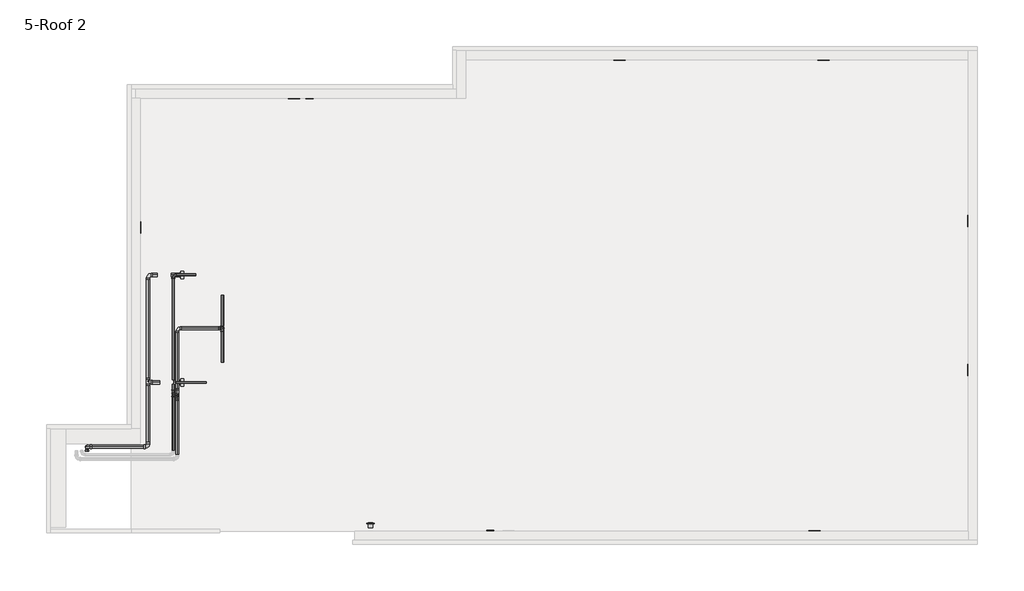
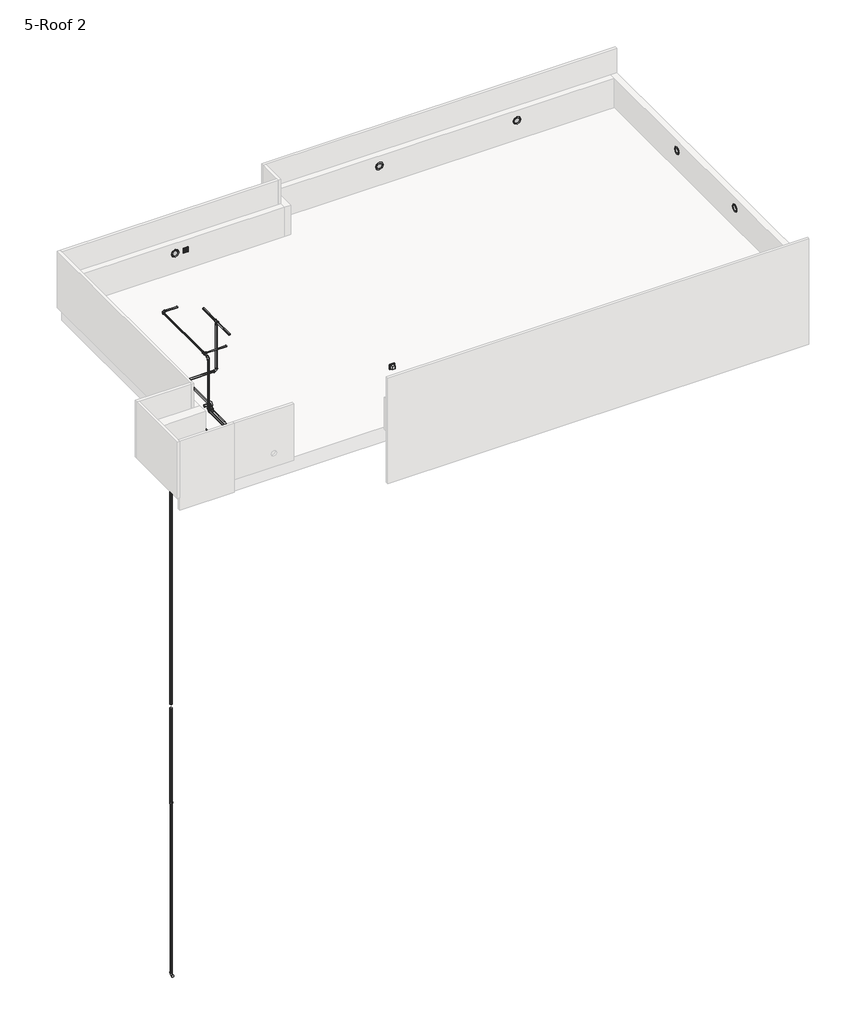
# One storey, part 2 of 2: 25 pipe segments, 17 pipe fittings, 7 light fixtures, 2 proxies, 1 switching device.
"""IFC4 building model written with IfcOpenShell, lengths in millimetres."""

from ifc_helpers import new_model, si_unit, point, frame, frame_2d, origin, place, context, project, spatial, circle_curve, trimmed, segment, composite_curve, outline, extrude, transform, mapped, element, save
from ifc_brep_helpers import plane_surface, cylinder_surface, advanced_brep
from components import wall_mounted_socket_ups_wall_mounted_socket_ups_4524048d, m_recessed_lamp_round_led_e6f06c98, m_bend_pvc_sch_40_dwv_standard_48d77e49, m_bend_pvc_sch_40_dwv_standard_b153bf5a, m_bend_pvc_sch_40_dwv_standard_3b51b5af, m_bend_pvc_sch_40_dwv_standard_be9000f5, m_bend_pvc_sch_40_dwv_standard_58f888c4, m_bend_pvc_sch_40_dwv_standard_6a13f82e, m_reducer_pvc_sch_40_dwv_standard_5cc089c8, m_reducer_pvc_sch_40_dwv_standard_06ee5028, m_tee_reducing_sanitary_pvc_sch_40_dwv_standard_7461a09c, m_tee_reducing_sanitary_pvc_sch_40_dwv_standard_235fb988, m_tee_reducing_sanitary_pvc_sch_40_dwv_standard_82d335f6, switching_device_ab05ab5c

model = new_model("IFC4")

# Units and contexts
model_context = context("Model", 3, world=origin())
ifc_project = project(units=[si_unit("LENGTHUNIT", "METRE", prefix="MILLI")], contexts=[model_context])

# Site, building, storey
site = spatial("IfcSite", under=ifc_project)
building = spatial("IfcBuilding", under=site)
storey = spatial("IfcBuildingStorey", under=building, Name="5-Roof 2", Elevation=13150.0)

# Proxies
placement = place(None, origin())
wall_mounted_socket_ups_wall_mounted_socket_ups_shape = wall_mounted_socket_ups_wall_mounted_socket_ups_4524048d(model_context)
element("IfcBuildingElementProxy", 1, Name="WALL MOUNTED WATERPROOF SOCKET : WALL MOUNTED WATERPROOF SOCKET", ObjectType="WALL MOUNTED WATERPROOF SOCKET : WALL MOUNTED WATERPROOF SOCKET", at=placement, inside=storey, context=model_context, shape_type="MappedRepresentation", body=[
    mapped(wall_mounted_socket_ups_wall_mounted_socket_ups_shape, transform((-2737.4765921, 8581.6620874, 13600.0), x_axis=(1.0, 0.0, 0.0), y_axis=(0.0, 0.0, 1.0), z_axis=(0.0, -1.0, 0.0))),
])
element("IfcBuildingElementProxy", 2, Name="WALL MOUNTED WATERPROOF SOCKET : WALL MOUNTED WATERPROOF SOCKET", ObjectType="WALL MOUNTED WATERPROOF SOCKET : WALL MOUNTED WATERPROOF SOCKET", at=placement, inside=storey, context=model_context, shape_type="MappedRepresentation", body=[
    mapped(wall_mounted_socket_ups_wall_mounted_socket_ups_shape, transform((-387.4765921, 2950.6486583, 13600.0), x_axis=(-1.0, 0.0, 0.0), y_axis=(0.0, 0.0, 1.0), z_axis=(0.0, 1.0, 0.0))),
])

# Light fixtures
m_recessed_lamp_round_led_shape = m_recessed_lamp_round_led_e6f06c98(model_context)
element("IfcLightFixture", 3, ObjectType="M_Recessed Lamp - Round - LED : 100mm Trimless Downlight", at=placement, inside=storey, context=model_context, shape_type="MappedRepresentation", body=[
    mapped(m_recessed_lamp_round_led_shape, transform((3827.8774898, 2950.6486583, 13600.0), x_axis=(-1.0, 0.0, 0.0), y_axis=(0.0, 0.0, 1.0), z_axis=(0.0, 1.0, 0.0))),
])
element("IfcLightFixture", 4, ObjectType="M_Recessed Lamp - Round - LED : 100mm Trimless Downlight", at=placement, inside=storey, context=model_context, shape_type="MappedRepresentation", body=[
    mapped(m_recessed_lamp_round_led_shape, transform((5827.8774898, 5046.4863231, 13600.0), x_axis=(0.0, -1.0, 0.0), y_axis=(0.0, 0.0, 1.0), z_axis=(-1.0, 0.0, 0.0))),
])
element("IfcLightFixture", 5, ObjectType="M_Recessed Lamp - Round - LED : 100mm Trimless Downlight", at=placement, inside=storey, context=model_context, shape_type="MappedRepresentation", body=[
    mapped(m_recessed_lamp_round_led_shape, transform((5827.8774898, 6981.6620874, 13600.0), x_axis=(0.0, -1.0, 0.0), y_axis=(0.0, 0.0, 1.0), z_axis=(-1.0, 0.0, 0.0))),
])
element("IfcLightFixture", 6, ObjectType="M_Recessed Lamp - Round - LED : 100mm Trimless Downlight", at=placement, inside=storey, context=model_context, shape_type="MappedRepresentation", body=[
    mapped(m_recessed_lamp_round_led_shape, transform((3947.8774898, 9081.6620874, 13600.0), x_axis=(1.0, 0.0, 0.0), y_axis=(0.0, 0.0, 1.0), z_axis=(0.0, -1.0, 0.0))),
])
element("IfcLightFixture", 7, ObjectType="M_Recessed Lamp - Round - LED : 100mm Trimless Downlight", at=placement, inside=storey, context=model_context, shape_type="MappedRepresentation", body=[
    mapped(m_recessed_lamp_round_led_shape, transform((1292.5234079, 9081.6620874, 13600.0), x_axis=(1.0, 0.0, 0.0), y_axis=(0.0, 0.0, 1.0), z_axis=(0.0, -1.0, 0.0))),
])
element("IfcLightFixture", 8, ObjectType="M_Recessed Lamp - Round - LED : 100mm Trimless Downlight", at=placement, inside=storey, context=model_context, shape_type="MappedRepresentation", body=[
    mapped(m_recessed_lamp_round_led_shape, transform((-2937.4765921, 8581.6620874, 13600.0), x_axis=(0.0, 0.0, 1.0), y_axis=(-1.0, 0.0, 0.0), z_axis=(0.0, -1.0, 0.0))),
])
element("IfcLightFixture", 9, ObjectType="M_Recessed Lamp - Round - LED : 100mm Trimless Downlight", at=placement, inside=storey, context=model_context, shape_type="MappedRepresentation", body=[
    mapped(m_recessed_lamp_round_led_shape, transform((-4937.4765921, 6901.6620874, 13600.0), x_axis=(0.0, 1.0, 0.0), y_axis=(0.0, 0.0, 1.0), z_axis=(1.0, 0.0, 0.0))),
])

# Pipe fittings
m_bend_pvc_sch_40_dwv_standard_shape = m_bend_pvc_sch_40_dwv_standard_48d77e49(model_context)
element("IfcPipeFitting", 10, ObjectType="M_Bend - PVC - Sch 40 - DWV : Standard", at=placement, inside=storey, context=model_context, shape_type="MappedRepresentation", body=[
    mapped(m_bend_pvc_sch_40_dwv_standard_shape, transform((-4837.4765921, 6281.6620874, 13275.0), x_axis=(-1.0, 0.0, 0.0), y_axis=(0.0, -1.0, 0.0), z_axis=(0.0, 0.0, 1.0))),
])
element("IfcPipeFitting", 11, ObjectType="M_Bend - PVC - Sch 40 - DWV : Standard", at=placement, inside=storey, context=model_context, shape_type="MappedRepresentation", body=[
    mapped(m_bend_pvc_sch_40_dwv_standard_shape, transform((-4837.4765921, 4046.005548, 13275.0), x_axis=(1.0, 0.0, 0.0), y_axis=(0.0, 1.0, 0.0), z_axis=(0.0, 0.0, 1.0))),
])
element("IfcPipeFitting", 12, ObjectType="M_Bend - PVC - Sch 40 - DWV : Standard", at=placement, inside=storey, context=model_context, shape_type="MappedRepresentation", body=[
    mapped(m_bend_pvc_sch_40_dwv_standard_shape, transform((-5629.7730432, 4046.005548, 13275.0), x_axis=(-1.0, 0.0, 0.0), y_axis=(0.0, 0.0, -1.0), z_axis=(0.0, -1.0, 0.0))),
])
m_bend_pvc_sch_40_dwv_standard_2_shape = m_bend_pvc_sch_40_dwv_standard_b153bf5a(model_context)
element("IfcPipeFitting", 13, ObjectType="M_Bend - PVC - Sch 40 - DWV : Standard", at=placement, inside=storey, context=model_context, shape_type="MappedRepresentation", body=[
    mapped(m_bend_pvc_sch_40_dwv_standard_2_shape, transform((-5629.7730546, 4046.005548, 2580.0), x_axis=(-1.9884223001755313e-07, 0.0, -0.9999999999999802), y_axis=(0.0, -1.0, 0.0), z_axis=(-0.9999999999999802, 0.0, 1.9884223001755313e-07))),
])
element("IfcPipeFitting", 14, ObjectType="M_Bend - PVC - Sch 40 - DWV : Standard", at=placement, inside=storey, context=model_context, shape_type="MappedRepresentation", body=[
    mapped(m_bend_pvc_sch_40_dwv_standard_2_shape, transform((-4457.4765921, 5588.5526358, 13350.0), x_axis=(-1.0, 0.0, 0.0), y_axis=(0.0, -1.0, 0.0), z_axis=(0.0, 0.0, 1.0))),
])
element("IfcPipeFitting", 15, ObjectType="M_Bend - PVC - Sch 40 - DWV : Standard", at=placement, inside=storey, context=model_context, shape_type="MappedRepresentation", body=[
    mapped(m_bend_pvc_sch_40_dwv_standard_2_shape, transform((-3867.4765921, 5588.5526358, 13350.0), x_axis=(1.0, 0.0, 0.0), y_axis=(0.0, 0.0, 1.0), z_axis=(0.0, -1.0, 0.0))),
])
m_bend_pvc_sch_40_dwv_standard_3_shape = m_bend_pvc_sch_40_dwv_standard_3b51b5af(model_context)
element("IfcPipeFitting", 16, ObjectType="M_Bend - PVC - Sch 40 - DWV : Standard", at=placement, inside=storey, context=model_context, shape_type="MappedRepresentation", body=[
    mapped(m_bend_pvc_sch_40_dwv_standard_3_shape, transform((-4457.4765921, 4763.5526358, 13350.0), x_axis=(0.0, -1.0, 0.0), y_axis=(0.0, 0.0, -1.0), z_axis=(1.0, 0.0, 0.0))),
])
element("IfcPipeFitting", 17, ObjectType="M_Bend - PVC - Sch 40 - DWV : Standard", at=placement, inside=storey, context=model_context, shape_type="MappedRepresentation", body=[
    mapped(m_bend_pvc_sch_40_dwv_standard_3_shape, transform((-4457.4765921, 4688.5526358, 13275.0), x_axis=(0.0, -0.7071067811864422, -0.7071067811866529), y_axis=(0.0, -0.7071067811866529, 0.7071067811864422), z_axis=(-1.0, 0.0, 0.0))),
])
m_bend_pvc_sch_40_dwv_standard_4_shape = m_bend_pvc_sch_40_dwv_standard_be9000f5(model_context)
element("IfcPipeFitting", 18, ObjectType="M_Bend - PVC - Sch 40 - DWV : Standard", at=placement, inside=storey, context=model_context, shape_type="MappedRepresentation", body=[
    mapped(m_bend_pvc_sch_40_dwv_standard_4_shape, transform((-4508.6248234, 6281.6620874, 14349.999999), x_axis=(-1.0, 0.0, 0.0), y_axis=(0.0, -0.9999999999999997, 2.4853871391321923e-08), z_axis=(0.0, 2.4853871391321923e-08, 0.9999999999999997))),
])
m_bend_pvc_sch_40_dwv_standard_5_shape = m_bend_pvc_sch_40_dwv_standard_58f888c4(model_context)
element("IfcPipeFitting", 19, ObjectType="M_Bend - PVC - Sch 40 - DWV : Standard", at=placement, inside=storey, context=model_context, shape_type="MappedRepresentation", body=[
    mapped(m_bend_pvc_sch_40_dwv_standard_5_shape, transform((-4508.6248234, 4742.9529235, 14350.0), x_axis=(0.0, -0.999999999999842, -5.622534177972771e-07), y_axis=(0.0, 5.622534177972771e-07, -0.999999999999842), z_axis=(1.0, 0.0, 0.0))),
])
m_bend_pvc_sch_40_dwv_standard_6_shape = m_bend_pvc_sch_40_dwv_standard_6a13f82e(model_context)
element("IfcPipeFitting", 20, ObjectType="M_Bend - PVC - Sch 40 - DWV : Standard", at=placement, inside=storey, context=model_context, shape_type="MappedRepresentation", body=[
    mapped(m_bend_pvc_sch_40_dwv_standard_6_shape, transform((-4508.6248234, 4742.9540761, 13274.999985), x_axis=(0.0, 1.1245068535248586e-06, -0.9999999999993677), y_axis=(0.0, -0.9999999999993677, -1.1245068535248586e-06), z_axis=(-1.0, 0.0, 0.0))),
])
m_reducer_pvc_sch_40_dwv_standard_shape = m_reducer_pvc_sch_40_dwv_standard_5cc089c8(model_context)
element("IfcPipeFitting", 21, ObjectType="M_Reducer - PVC - Sch 40 - DWV : Standard", at=placement, inside=storey, context=model_context, shape_type="MappedRepresentation", body=[
    mapped(m_reducer_pvc_sch_40_dwv_standard_shape, transform((-4374.0532709, 4884.4560655, 13275.0), x_axis=(-1.0, 0.0, 0.0), y_axis=(0.0, -1.0, 0.0), z_axis=(0.0, 0.0, 1.0))),
])
element("IfcPipeFitting", 22, ObjectType="M_Reducer - PVC - Sch 40 - DWV : Standard", at=placement, inside=storey, context=model_context, shape_type="MappedRepresentation", body=[
    mapped(m_reducer_pvc_sch_40_dwv_standard_shape, transform((-4374.0532709, 6281.6620874, 13275.0), x_axis=(-1.0, 0.0, 0.0), y_axis=(0.0, -1.0, 0.0), z_axis=(0.0, 0.0, 1.0))),
])
m_reducer_pvc_sch_40_dwv_standard_2_shape = m_reducer_pvc_sch_40_dwv_standard_06ee5028(model_context)
element("IfcPipeFitting", 23, ObjectType="M_Reducer - PVC - Sch 40 - DWV : Standard", at=placement, inside=storey, context=model_context, shape_type="MappedRepresentation", body=[
    mapped(m_reducer_pvc_sch_40_dwv_standard_2_shape, transform((-5629.7722759, 4046.0055479, 6096.0891738), x_axis=(-1.9884223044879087e-07, 0.0, -0.9999999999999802), y_axis=(0.0, 1.0, 0.0), z_axis=(0.9999999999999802, 0.0, -1.9884223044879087e-07))),
])
m_tee_reducing_sanitary_pvc_sch_40_dwv_standard_shape = m_tee_reducing_sanitary_pvc_sch_40_dwv_standard_7461a09c(model_context)
element("IfcPipeFitting", 24, ObjectType="M_Tee Reducing Sanitary - PVC - Sch 40 - DWV : Standard", at=placement, inside=storey, context=model_context, shape_type="MappedRepresentation", body=[
    mapped(m_tee_reducing_sanitary_pvc_sch_40_dwv_standard_shape, transform((-4837.4765921, 4884.4560655, 13275.0), x_axis=(0.0, -1.0, 0.0), y_axis=(-1.0, 0.0, 0.0), z_axis=(0.0, 0.0, -1.0))),
])
m_tee_reducing_sanitary_pvc_sch_40_dwv_standard_2_shape = m_tee_reducing_sanitary_pvc_sch_40_dwv_standard_235fb988(model_context)
element("IfcPipeFitting", 25, ObjectType="M_Tee Reducing Sanitary - PVC - Sch 40 - DWV : Standard", at=placement, inside=storey, context=model_context, shape_type="MappedRepresentation", body=[
    mapped(m_tee_reducing_sanitary_pvc_sch_40_dwv_standard_2_shape, transform((-3867.4765921, 5588.5526358, 14350.0), x_axis=(0.0, 1.0, 0.0), y_axis=(0.0, 0.0, 1.0), z_axis=(1.0, 0.0, 0.0))),
])
m_tee_reducing_sanitary_pvc_sch_40_dwv_standard_3_shape = m_tee_reducing_sanitary_pvc_sch_40_dwv_standard_82d335f6(model_context)
element("IfcPipeFitting", 26, ObjectType="M_Tee Reducing Sanitary - PVC - Sch 40 - DWV : Standard", at=placement, inside=storey, context=model_context, shape_type="MappedRepresentation", body=[
    mapped(m_tee_reducing_sanitary_pvc_sch_40_dwv_standard_3_shape, transform((-4508.6248234, 4884.4560655, 14350.0000668), x_axis=(0.0, -0.9999999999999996, 3.3079317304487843e-08), y_axis=(-0.9999999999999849, 0.0, 1.748666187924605e-07), z_axis=(-1.748666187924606e-07, -3.3079317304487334e-08, -0.9999999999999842))),
])

# Pipe segments
element("IfcPipeSegment", 27, ObjectType="PVC - DWV", at=placement, inside=storey, context=model_context, shape_type="SweptSolid", body=[
    extrude(outline(composite_curve([segment(trimmed(circle_curve(frame_2d((4884.4560655, 13275.0)), 21.082), [point((4905.5380655, 13275.0))], [point((4884.4560655, 13253.918))], False, "CARTESIAN"), True, "CONTINUOUS"), segment(trimmed(circle_curve(frame_2d((4884.4560655, 13275.0)), 21.082), [point((4884.4560655, 13253.918))], [point((4863.3740655, 13275.0))], False, "CARTESIAN"), True, "CONTINUOUS"), segment(trimmed(circle_curve(frame_2d((4884.4560655, 13275.0)), 21.082), [point((4863.3740655, 13275.0))], [point((4884.4560655, 13296.082))], False, "CARTESIAN"), True, "CONTINUOUS"), segment(trimmed(circle_curve(frame_2d((4884.4560655, 13275.0)), 21.082), [point((4884.4560655, 13296.082))], [point((4905.5380655, 13275.0))], False, "CARTESIAN"), True, "CONTINUOUS")], self_intersect=False)), frame((-4779.7486234, 0.0, 0.0), z_axis=(1.0, 0.0, 0.0), x_axis=(0.0, 1.0, 0.0)), (0.0, 0.0, 1.0), 95.2316893),
])
element("IfcPipeSegment", 28, ObjectType="PVC - DWV", at=placement, inside=storey, context=model_context, shape_type="SweptSolid", body=[
    extrude(outline(composite_curve([segment(trimmed(circle_curve(frame_2d((6281.6620874, 13275.0)), 21.082), [point((6302.7440874, 13275.0))], [point((6281.6620874, 13253.918))], False, "CARTESIAN"), True, "CONTINUOUS"), segment(trimmed(circle_curve(frame_2d((6281.6620874, 13275.0)), 21.082), [point((6281.6620874, 13253.918))], [point((6260.5800874, 13275.0))], False, "CARTESIAN"), True, "CONTINUOUS"), segment(trimmed(circle_curve(frame_2d((6281.6620874, 13275.0)), 21.082), [point((6260.5800874, 13275.0))], [point((6281.6620874, 13296.082))], False, "CARTESIAN"), True, "CONTINUOUS"), segment(trimmed(circle_curve(frame_2d((6281.6620874, 13275.0)), 21.082), [point((6281.6620874, 13296.082))], [point((6302.7440874, 13275.0))], False, "CARTESIAN"), True, "CONTINUOUS")], self_intersect=False)), frame((-4780.3265921, 0.0, 0.0), z_axis=(1.0, 0.0, 0.0), x_axis=(0.0, 1.0, 0.0)), (0.0, 0.0, 1.0), 64.4201291),
])
element("IfcPipeSegment", 29, ObjectType="PVC - DWV", at=placement, inside=storey, context=model_context, shape_type="SweptSolid", body=[
    extrude(outline(composite_curve([segment(trimmed(circle_curve(frame_2d((13275.0, -4837.4765921)), 21.082), [point((13275.0, -4816.3945921))], [point((13296.082, -4837.4765921))], False, "CARTESIAN"), True, "CONTINUOUS"), segment(trimmed(circle_curve(frame_2d((13275.0, -4837.4765921)), 21.082), [point((13296.082, -4837.4765921))], [point((13275.0, -4858.5585921))], False, "CARTESIAN"), True, "CONTINUOUS"), segment(trimmed(circle_curve(frame_2d((13275.0, -4837.4765921)), 21.082), [point((13275.0, -4858.5585921))], [point((13253.918, -4837.4765921))], False, "CARTESIAN"), True, "CONTINUOUS"), segment(trimmed(circle_curve(frame_2d((13275.0, -4837.4765921)), 21.082), [point((13253.918, -4837.4765921))], [point((13275.0, -4816.3945921))], False, "CARTESIAN"), True, "CONTINUOUS")], self_intersect=False)), frame((0.0, 4940.7202042, 0.0), z_axis=(0.0, 1.0, 0.0), x_axis=(0.0, 0.0, 1.0)), (0.0, 0.0, 1.0), 1283.7918832),
])
element("IfcPipeSegment", 30, ObjectType="PVC - DWV", at=placement, inside=storey, context=model_context, shape_type="SweptSolid", body=[
    extrude(outline(composite_curve([segment(trimmed(circle_curve(frame_2d((13275.0, -4837.4765921)), 21.082), [point((13275.0, -4858.5585921))], [point((13253.918, -4837.4765921))], False, "CARTESIAN"), True, "CONTINUOUS"), segment(trimmed(circle_curve(frame_2d((13275.0, -4837.4765921)), 21.082), [point((13253.918, -4837.4765921))], [point((13275.0, -4816.3945921))], False, "CARTESIAN"), True, "CONTINUOUS"), segment(trimmed(circle_curve(frame_2d((13275.0, -4837.4765921)), 21.082), [point((13275.0, -4816.3945921))], [point((13296.082, -4837.4765921))], False, "CARTESIAN"), True, "CONTINUOUS"), segment(trimmed(circle_curve(frame_2d((13275.0, -4837.4765921)), 21.082), [point((13296.082, -4837.4765921))], [point((13275.0, -4858.5585921))], False, "CARTESIAN"), True, "CONTINUOUS")], self_intersect=False)), frame((0.0, 4103.155548, 0.0), z_axis=(0.0, 1.0, 0.0), x_axis=(0.0, 0.0, 1.0)), (0.0, 0.0, 1.0), 742.85),
])
element("IfcPipeSegment", 31, ObjectType="PVC - DWV", at=placement, inside=storey, context=model_context, shape_type="SweptSolid", body=[
    extrude(outline(composite_curve([segment(trimmed(circle_curve(frame_2d((4046.005548, 13275.0)), 21.082), [point((4067.087548, 13275.0))], [point((4046.005548, 13253.918))], False, "CARTESIAN"), True, "CONTINUOUS"), segment(trimmed(circle_curve(frame_2d((4046.005548, 13275.0)), 21.082), [point((4046.005548, 13253.918))], [point((4024.923548, 13275.0))], False, "CARTESIAN"), True, "CONTINUOUS"), segment(trimmed(circle_curve(frame_2d((4046.005548, 13275.0)), 21.082), [point((4024.923548, 13275.0))], [point((4046.005548, 13296.082))], False, "CARTESIAN"), True, "CONTINUOUS"), segment(trimmed(circle_curve(frame_2d((4046.005548, 13275.0)), 21.082), [point((4046.005548, 13296.082))], [point((4067.087548, 13275.0))], False, "CARTESIAN"), True, "CONTINUOUS")], self_intersect=False)), frame((-5572.6230432, 0.0, 0.0), z_axis=(1.0, 0.0, 0.0), x_axis=(0.0, 1.0, 0.0)), (0.0, 0.0, 1.0), 677.996451),
])
element("IfcPipeSegment", 32, ObjectType="PVC - DWV", at=placement, inside=storey, context=model_context, shape_type="SweptSolid", body=[
    extrude(outline(composite_curve([segment(trimmed(circle_curve(frame_2d((0.0, -16.7005)), 16.7005), [point((-16.7005, -16.7005))], [point((0.0, 0.0))], False, "CARTESIAN"), True, "CONTINUOUS"), segment(trimmed(circle_curve(frame_2d((0.0, -16.7005)), 16.7005), [point((0.0, 0.0))], [point((16.7005, -16.7005))], False, "CARTESIAN"), True, "CONTINUOUS"), segment(trimmed(circle_curve(frame_2d((0.0, -16.7005)), 16.7005), [point((16.7005, -16.7005))], [point((0.0, -33.401))], False, "CARTESIAN"), True, "CONTINUOUS"), segment(trimmed(circle_curve(frame_2d((0.0, -16.7005)), 16.7005), [point((0.0, -33.401))], [point((-16.7005, -16.7005))], False, "CARTESIAN"), True, "CONTINUOUS")], self_intersect=False)), frame((-5629.7730441, 4029.3050479, 2632.6140625), z_axis=(2.2203537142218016e-07, 0.0, 0.9999999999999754), x_axis=(-0.9999999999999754, 0.0, 2.2203537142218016e-07)), (0.0, 0.0, 1.0), 3429.3290176),
])
element("IfcPipeSegment", 33, ObjectType="PVC - DWV", at=placement, inside=storey, context=model_context, shape_type="SweptSolid", body=[
    extrude(outline(composite_curve([segment(trimmed(circle_curve(frame_2d((0.0, 21.082)), 21.082), [point((-21.082, 21.082))], [point((0.0, 42.164))], False, "CARTESIAN"), True, "CONTINUOUS"), segment(trimmed(circle_curve(frame_2d((0.0, 21.082)), 21.082), [point((0.0, 42.164))], [point((21.082, 21.082))], False, "CARTESIAN"), True, "CONTINUOUS"), segment(trimmed(circle_curve(frame_2d((0.0, 21.082)), 21.082), [point((21.082, 21.082))], [point((0.0, 0.0))], False, "CARTESIAN"), True, "CONTINUOUS"), segment(trimmed(circle_curve(frame_2d((0.0, 21.082)), 21.082), [point((0.0, 0.0))], [point((-21.082, 21.082))], False, "CARTESIAN"), True, "CONTINUOUS")], self_intersect=False)), frame((-5629.7718555, 4024.923548, 9848.9858613), z_axis=(3.9358848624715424e-07, 0.0, 0.9999999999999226), x_axis=(0.9999999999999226, 0.0, -3.9358848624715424e-07)), (0.0, 0.0, 1.0), 1585.7546562),
])
element("IfcPipeSegment", 34, ObjectType="PVC - DWV", at=placement, inside=storey, context=model_context, shape_type="SweptSolid", body=[
    extrude(outline(composite_curve([segment(trimmed(circle_curve(frame_2d((0.0, -21.082)), 21.082), [point((-21.082, -21.082))], [point((0.0, 0.0))], False, "CARTESIAN"), True, "CONTINUOUS"), segment(trimmed(circle_curve(frame_2d((0.0, -21.082)), 21.082), [point((0.0, 0.0))], [point((21.082, -21.082))], False, "CARTESIAN"), True, "CONTINUOUS"), segment(trimmed(circle_curve(frame_2d((0.0, -21.082)), 21.082), [point((21.082, -21.082))], [point((0.0, -42.164))], False, "CARTESIAN"), True, "CONTINUOUS"), segment(trimmed(circle_curve(frame_2d((0.0, -21.082)), 21.082), [point((0.0, -42.164))], [point((-21.082, -21.082))], False, "CARTESIAN"), True, "CONTINUOUS")], self_intersect=False)), frame((-5629.7655156, 4024.923548, 9934.7405175), z_axis=(-2.2928107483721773e-06, 0.0, 0.9999999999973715), x_axis=(-0.9999999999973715, 0.0, -2.2928107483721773e-06)), (0.0, 0.0, 1.0), 3283.1094825),
])
element("IfcPipeSegment", 35, ObjectType="PVC - DWV", at=placement, inside=storey, context=model_context, shape_type="SweptSolid", body=[
    extrude(outline(composite_curve([segment(trimmed(circle_curve(frame_2d((0.0, -21.082)), 21.082), [point((-21.082, -21.082))], [point((0.0, 0.0))], False, "CARTESIAN"), True, "CONTINUOUS"), segment(trimmed(circle_curve(frame_2d((0.0, -21.082)), 21.082), [point((0.0, 0.0))], [point((21.082, -21.082))], False, "CARTESIAN"), True, "CONTINUOUS"), segment(trimmed(circle_curve(frame_2d((0.0, -21.082)), 21.082), [point((21.082, -21.082))], [point((0.0, -42.164))], False, "CARTESIAN"), True, "CONTINUOUS"), segment(trimmed(circle_curve(frame_2d((0.0, -21.082)), 21.082), [point((0.0, -42.164))], [point((-21.082, -21.082))], False, "CARTESIAN"), True, "CONTINUOUS")], self_intersect=False)), frame((-5629.7722759, 4024.9235479, 6096.0891738), z_axis=(5.406449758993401e-07, 0.0, 0.9999999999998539), x_axis=(-0.9999999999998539, 0.0, 5.406449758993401e-07)), (0.0, 0.0, 1.0), 1919.1703087),
])
element("IfcPipeSegment", 36, ObjectType="PVC - DWV", at=placement, inside=storey, context=model_context, shape_type="AdvancedBrep", body=[
    advanced_brep(
    [(-5608.6892314, 4046.0055479, 11348.9858613), (-5629.7712314, 4067.0875479, 11348.9858612), (-5650.8532314, 4046.0055479, 11348.9858612), (-5629.7712314, 4024.9235479, 11348.9858612), (-5608.6892212, 4046.0055479, 8101.0141388), (-5629.7712212, 4024.9235479, 8101.0141387), (-5650.8532212, 4046.0055479, 8101.0141387), (-5629.7712212, 4067.0875479, 8101.0141387)],
    [
        (0, 1, circle_curve(frame((-5629.7712314, 4046.0055479, 11348.9858613), z_axis=(0.0, 0.0, 1.0), x_axis=(1.0, 0.0, 0.0)), 21.082)),
        (1, 2, circle_curve(frame((-5629.7712314, 4046.0055479, 11348.9858612), z_axis=(0.0, 0.0, 1.0), x_axis=(1.0, 0.0, 0.0)), 21.082)),
        (2, 3, circle_curve(frame((-5629.7712314, 4046.0055479, 11348.9858612), z_axis=(0.0, 0.0, 1.0), x_axis=(1.0, 0.0, 0.0)), 21.082)),
        (3, 0, circle_curve(frame((-5629.7712314, 4046.0055479, 11348.9858612), z_axis=(0.0, 0.0, 1.0), x_axis=(1.0, 0.0, 0.0)), 21.082)),
        (4, 5, circle_curve(frame((-5629.7712314, 4046.0055479, 8101.0141388), z_axis=(0.0, 0.0, -1.0), x_axis=(1.0, 0.0, 0.0)), 21.0820101)),
        (5, 6, circle_curve(frame((-5629.7712314, 4046.0055479, 8101.0141387), z_axis=(0.0, 0.0, -1.0), x_axis=(1.0, 0.0, 0.0)), 21.082)),
        (6, 7, circle_curve(frame((-5629.7712314, 4046.0055479, 8101.0141387), z_axis=(0.0, 0.0, -1.0), x_axis=(1.0, 0.0, 0.0)), 21.0819899)),
        (7, 4, circle_curve(frame((-5629.7712314, 4046.0055479, 8101.0141387), z_axis=(0.0, 0.0, -1.0), x_axis=(1.0, 0.0, 0.0)), 21.082)),
        (0, 4),
        (7, 1),
        (6, 2),
        (5, 3),
    ],
    [
        plane_surface(frame((-5629.7712314, 4024.9235479, 11348.9858612), z_axis=(-3.1230982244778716e-09, 0.0, 1.0), x_axis=(-1.0, 0.0, -3.1230982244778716e-09))),
        plane_surface(frame((-5629.7712212, 4024.9235479, 8101.0141387), z_axis=(3.1230982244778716e-09, 0.0, -1.0), x_axis=(-1.0, 0.0, -3.1230982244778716e-09))),
        cylinder_surface(frame((-5629.7712314, 4046.0055479, 11348.9858612), z_axis=(0.0, 0.0, 1.0), x_axis=(1.0, 0.0, 0.0)), 21.082),
    ],
    [
        (0, [[1, 2, 3, 4]]),
        (1, [[5, 6, 7, 8]]),
        (2, [[-1, 9, -8, 10]]),
        (2, [[-2, -10, -7, 11]]),
        (2, [[-3, -11, -6, 12]]),
        (2, [[-4, -12, -5, -9]]),
    ],
),
])
element("IfcPipeSegment", 37, ObjectType="PVC - DWV", at=placement, inside=storey, context=model_context, shape_type="SweptSolid", body=[
    extrude(outline(composite_curve([segment(trimmed(circle_curve(frame_2d((14350.0000001, -4508.6248234)), 13.335), [point((14350.0000001, -4521.9598234))], [point((14336.6650001, -4508.6248234))], False, "CARTESIAN"), True, "CONTINUOUS"), segment(trimmed(circle_curve(frame_2d((14350.0000001, -4508.6248234)), 13.335), [point((14336.6650001, -4508.6248234))], [point((14350.0000001, -4495.2898234))], False, "CARTESIAN"), True, "CONTINUOUS"), segment(trimmed(circle_curve(frame_2d((14350.0000001, -4508.6248234)), 13.335), [point((14350.0000001, -4495.2898234))], [point((14363.3350001, -4508.6248234))], False, "CARTESIAN"), True, "CONTINUOUS"), segment(trimmed(circle_curve(frame_2d((14350.0000001, -4508.6248234)), 13.335), [point((14363.3350001, -4508.6248234))], [point((14350.0000001, -4521.9598234))], False, "CARTESIAN"), True, "CONTINUOUS")], self_intersect=False)), frame((0.0, 4921.8614842, 0.0), z_axis=(0.0, 1.0, 0.0), x_axis=(0.0, 0.0, 1.0)), (0.0, 0.0, 1.0), 1312.9865407),
])
element("IfcPipeSegment", 38, ObjectType="PVC - DWV", at=placement, inside=storey, context=model_context, shape_type="SweptSolid", body=[
    extrude(outline(composite_curve([segment(trimmed(circle_curve(frame_2d((6281.6620874, 14349.999999)), 13.335), [point((6268.3270874, 14349.999999))], [point((6281.6620874, 14363.334999))], False, "CARTESIAN"), True, "CONTINUOUS"), segment(trimmed(circle_curve(frame_2d((6281.6620874, 14349.999999)), 13.335), [point((6281.6620874, 14363.334999))], [point((6294.9970874, 14349.999999))], False, "CARTESIAN"), True, "CONTINUOUS"), segment(trimmed(circle_curve(frame_2d((6281.6620874, 14349.999999)), 13.335), [point((6294.9970874, 14349.999999))], [point((6281.6620874, 14336.664999))], False, "CARTESIAN"), True, "CONTINUOUS"), segment(trimmed(circle_curve(frame_2d((6281.6620874, 14349.999999)), 13.335), [point((6281.6620874, 14336.664999))], [point((6268.3270874, 14349.999999))], False, "CARTESIAN"), True, "CONTINUOUS")], self_intersect=False)), frame((-4461.8107609, 0.0, 0.0), z_axis=(1.0, 0.0, 0.0), x_axis=(0.0, 1.0, 0.0)), (0.0, 0.0, 1.0), 243.1859186),
])
element("IfcPipeSegment", 39, ObjectType="PVC - DWV", at=placement, inside=storey, context=model_context, shape_type="SweptSolid", body=[
    extrude(outline(composite_curve([segment(trimmed(circle_curve(frame_2d((4884.4560655, 14350.00006)), 10.668), [point((4873.7880655, 14350.00006))], [point((4884.4560655, 14360.66806))], False, "CARTESIAN"), True, "CONTINUOUS"), segment(trimmed(circle_curve(frame_2d((4884.4560655, 14350.00006)), 10.668), [point((4884.4560655, 14360.66806))], [point((4895.1240655, 14350.00006))], False, "CARTESIAN"), True, "CONTINUOUS"), segment(trimmed(circle_curve(frame_2d((4884.4560655, 14350.00006)), 10.668), [point((4895.1240655, 14350.00006))], [point((4884.4560655, 14339.33206))], False, "CARTESIAN"), True, "CONTINUOUS"), segment(trimmed(circle_curve(frame_2d((4884.4560655, 14350.00006)), 10.668), [point((4884.4560655, 14339.33206))], [point((4873.7880655, 14350.00006))], False, "CARTESIAN"), True, "CONTINUOUS")], self_intersect=False)), frame((-4470.0068546, 0.0, 0.0), z_axis=(1.0, 0.0, 0.0), x_axis=(0.0, 1.0, 0.0)), (0.0, 0.0, 1.0), 391.3821095),
])
element("IfcPipeSegment", 40, ObjectType="PVC - DWV", at=placement, inside=storey, context=model_context, shape_type="SweptSolid", body=[
    extrude(outline(composite_curve([segment(trimmed(circle_curve(frame_2d((14350.0000675, -4508.6248234)), 13.335), [point((14350.0000675, -4521.9598234))], [point((14336.6650675, -4508.6248234))], False, "CARTESIAN"), True, "CONTINUOUS"), segment(trimmed(circle_curve(frame_2d((14350.0000675, -4508.6248234)), 13.335), [point((14336.6650675, -4508.6248234))], [point((14350.0000675, -4495.2898234))], False, "CARTESIAN"), True, "CONTINUOUS"), segment(trimmed(circle_curve(frame_2d((14350.0000675, -4508.6248234)), 13.335), [point((14350.0000675, -4495.2898234))], [point((14363.3350675, -4508.6248234))], False, "CARTESIAN"), True, "CONTINUOUS"), segment(trimmed(circle_curve(frame_2d((14350.0000675, -4508.6248234)), 13.335), [point((14363.3350675, -4508.6248234))], [point((14350.0000675, -4521.9598234))], False, "CARTESIAN"), True, "CONTINUOUS")], self_intersect=False)), frame((0.0, 4789.766986, 0.0), z_axis=(0.0, 1.0, 0.0), x_axis=(0.0, 0.0, 1.0)), (0.0, 0.0, 1.0), 70.8518419),
])
element("IfcPipeSegment", 41, ObjectType="PVC - DWV", at=placement, inside=storey, context=model_context, shape_type="SweptSolid", body=[
    extrude(outline(composite_curve([segment(trimmed(circle_curve(frame_2d((13275.0006666, -4508.6248234)), 13.335), [point((13275.0006666, -4495.2898234))], [point((13288.3356666, -4508.6248234))], False, "CARTESIAN"), True, "CONTINUOUS"), segment(trimmed(circle_curve(frame_2d((13275.0006666, -4508.6248234)), 13.335), [point((13288.3356666, -4508.6248234))], [point((13275.0006666, -4521.9598234))], False, "CARTESIAN"), True, "CONTINUOUS"), segment(trimmed(circle_curve(frame_2d((13275.0006666, -4508.6248234)), 13.335), [point((13275.0006666, -4521.9598234))], [point((13261.6656666, -4508.6248234))], False, "CARTESIAN"), True, "CONTINUOUS"), segment(trimmed(circle_curve(frame_2d((13275.0006666, -4508.6248234)), 13.335), [point((13261.6656666, -4508.6248234))], [point((13275.0006666, -4495.2898234))], False, "CARTESIAN"), True, "CONTINUOUS")], self_intersect=False)), frame((0.0, 3993.2553401, 0.0), z_axis=(0.0, 1.0, 0.0), x_axis=(0.0, 0.0, 1.0)), (0.0, 0.0, 1.0), 702.8846735),
])
element("IfcPipeSegment", 42, ObjectType="PVC - DWV", at=placement, inside=storey, context=model_context, shape_type="SweptSolid", body=[
    extrude(outline(composite_curve([segment(trimmed(circle_curve(frame_2d((0.0, -13.335)), 13.335), [point((-13.335, -13.335))], [point((0.0, 0.0))], False, "CARTESIAN"), True, "CONTINUOUS"), segment(trimmed(circle_curve(frame_2d((0.0, -13.335)), 13.335), [point((0.0, 0.0))], [point((13.335, -13.335))], False, "CARTESIAN"), True, "CONTINUOUS"), segment(trimmed(circle_curve(frame_2d((0.0, -13.335)), 13.335), [point((13.335, -13.335))], [point((0.0, -26.67))], False, "CARTESIAN"), True, "CONTINUOUS"), segment(trimmed(circle_curve(frame_2d((0.0, -13.335)), 13.335), [point((0.0, -26.67))], [point((-13.335, -13.335))], False, "CARTESIAN"), True, "CONTINUOUS")], self_intersect=False)), frame((-4508.6248234, 4729.6190235, 13321.8140333), z_axis=(0.0, -1.067214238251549e-06, 0.9999999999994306), x_axis=(-1.0, 0.0, 0.0)), (0.0, 0.0, 1.0), 981.37189),
])
element("IfcPipeSegment", 43, ObjectType="PVC - DWV", at=placement, inside=storey, context=model_context, shape_type="SweptSolid", body=[
    extrude(outline(composite_curve([segment(trimmed(circle_curve(frame_2d((13350.0, -4457.4765921)), 16.7005), [point((13350.0, -4474.1770921))], [point((13333.2995, -4457.4765921))], False, "CARTESIAN"), True, "CONTINUOUS"), segment(trimmed(circle_curve(frame_2d((13350.0, -4457.4765921)), 16.7005), [point((13333.2995, -4457.4765921))], [point((13350.0, -4440.7760921))], False, "CARTESIAN"), True, "CONTINUOUS"), segment(trimmed(circle_curve(frame_2d((13350.0, -4457.4765921)), 16.7005), [point((13350.0, -4440.7760921))], [point((13366.7005, -4457.4765921))], False, "CARTESIAN"), True, "CONTINUOUS"), segment(trimmed(circle_curve(frame_2d((13350.0, -4457.4765921)), 16.7005), [point((13366.7005, -4457.4765921))], [point((13350.0, -4474.1770921))], False, "CARTESIAN"), True, "CONTINUOUS")], self_intersect=False)), frame((0.0, 4800.2448233, 0.0), z_axis=(0.0, 1.0, 0.0), x_axis=(0.0, 0.0, 1.0)), (0.0, 0.0, 1.0), 735.69375),
])
element("IfcPipeSegment", 44, ObjectType="PVC - DWV", at=placement, inside=storey, context=model_context, shape_type="SweptSolid", body=[
    extrude(outline(composite_curve([segment(trimmed(circle_curve(frame_2d((5588.5526358, 13350.0)), 16.7005), [point((5571.8521358, 13350.0))], [point((5588.5526358, 13366.7005))], False, "CARTESIAN"), True, "CONTINUOUS"), segment(trimmed(circle_curve(frame_2d((5588.5526358, 13350.0)), 16.7005), [point((5588.5526358, 13366.7005))], [point((5605.2531358, 13350.0))], False, "CARTESIAN"), True, "CONTINUOUS"), segment(trimmed(circle_curve(frame_2d((5588.5526358, 13350.0)), 16.7005), [point((5605.2531358, 13350.0))], [point((5588.5526358, 13333.2995))], False, "CARTESIAN"), True, "CONTINUOUS"), segment(trimmed(circle_curve(frame_2d((5588.5526358, 13350.0)), 16.7005), [point((5588.5526358, 13333.2995))], [point((5571.8521358, 13350.0))], False, "CARTESIAN"), True, "CONTINUOUS")], self_intersect=False)), frame((-4404.8625296, 0.0, 0.0), z_axis=(1.0, 0.0, 0.0), x_axis=(0.0, 1.0, 0.0)), (0.0, 0.0, 1.0), 484.771875),
])
element("IfcPipeSegment", 45, ObjectType="PVC - DWV", at=placement, inside=storey, context=model_context, shape_type="SweptSolid", body=[
    extrude(outline(composite_curve([segment(trimmed(circle_curve(frame_2d((-3867.4765921, 5588.5526358)), 16.7005), [point((-3850.7760921, 5588.5526358))], [point((-3867.4765921, 5571.8521358))], False, "CARTESIAN"), True, "CONTINUOUS"), segment(trimmed(circle_curve(frame_2d((-3867.4765921, 5588.5526358)), 16.7005), [point((-3867.4765921, 5571.8521358))], [point((-3884.1770921, 5588.5526358))], False, "CARTESIAN"), True, "CONTINUOUS"), segment(trimmed(circle_curve(frame_2d((-3867.4765921, 5588.5526358)), 16.7005), [point((-3884.1770921, 5588.5526358))], [point((-3867.4765921, 5605.2531358))], False, "CARTESIAN"), True, "CONTINUOUS"), segment(trimmed(circle_curve(frame_2d((-3867.4765921, 5588.5526358)), 16.7005), [point((-3867.4765921, 5605.2531358))], [point((-3850.7760921, 5588.5526358))], False, "CARTESIAN"), True, "CONTINUOUS")], self_intersect=False)), frame((0.0, 0.0, 13402.6140625), z_axis=(0.0, 0.0, 1.0), x_axis=(1.0, 0.0, 0.0)), (0.0, 0.0, 1.0), 898.6179687),
])
element("IfcPipeSegment", 46, ObjectType="PVC - DWV", at=placement, inside=storey, context=model_context, shape_type="SweptSolid", body=[
    extrude(outline(composite_curve([segment(trimmed(circle_curve(frame_2d((13275.0, -4457.4765921)), 16.7005), [point((13275.0, -4474.1770921))], [point((13258.2995, -4457.4765921))], False, "CARTESIAN"), True, "CONTINUOUS"), segment(trimmed(circle_curve(frame_2d((13275.0, -4457.4765921)), 16.7005), [point((13258.2995, -4457.4765921))], [point((13275.0, -4440.7760921))], False, "CARTESIAN"), True, "CONTINUOUS"), segment(trimmed(circle_curve(frame_2d((13275.0, -4457.4765921)), 16.7005), [point((13275.0, -4440.7760921))], [point((13291.7005, -4457.4765921))], False, "CARTESIAN"), True, "CONTINUOUS"), segment(trimmed(circle_curve(frame_2d((13275.0, -4457.4765921)), 16.7005), [point((13291.7005, -4457.4765921))], [point((13275.0, -4474.1770921))], False, "CARTESIAN"), True, "CONTINUOUS")], self_intersect=False)), frame((0.0, 3941.1666983, 0.0), z_axis=(0.0, 1.0, 0.0), x_axis=(0.0, 0.0, 1.0)), (0.0, 0.0, 1.0), 710.69375),
])
element("IfcPipeSegment", 47, ObjectType="PVC - DWV", at=placement, inside=storey, context=model_context, shape_type="SweptSolid", body=[
    extrude(outline(composite_curve([segment(trimmed(circle_curve(frame_2d((0.0, -16.7005)), 16.7005), [point((-16.7005, -16.7005))], [point((0.0, 0.0))], False, "CARTESIAN"), True, "CONTINUOUS"), segment(trimmed(circle_curve(frame_2d((0.0, -16.7005)), 16.7005), [point((0.0, 0.0))], [point((16.7005, -16.7005))], False, "CARTESIAN"), True, "CONTINUOUS"), segment(trimmed(circle_curve(frame_2d((0.0, -16.7005)), 16.7005), [point((16.7005, -16.7005))], [point((0.0, -33.401))], False, "CARTESIAN"), True, "CONTINUOUS"), segment(trimmed(circle_curve(frame_2d((0.0, -16.7005)), 16.7005), [point((0.0, -33.401))], [point((-16.7005, -16.7005))], False, "CARTESIAN"), True, "CONTINUOUS")], self_intersect=False)), frame((-4457.4765921, 4726.3069672, 13289.1362578), z_axis=(0.0, 0.7071067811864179, 0.7071067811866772), x_axis=(1.0, 0.0, 0.0)), (0.0, 0.0, 1.0), 32.6816422),
])
element("IfcPipeSegment", 48, ObjectType="PVC - DWV", at=placement, inside=storey, context=model_context, shape_type="SweptSolid", body=[
    extrude(outline(composite_curve([segment(trimmed(circle_curve(frame_2d((14350.0, -3867.4765921)), 16.7005), [point((14350.0, -3884.1770921))], [point((14333.2995, -3867.4765921))], False, "CARTESIAN"), True, "CONTINUOUS"), segment(trimmed(circle_curve(frame_2d((14350.0, -3867.4765921)), 16.7005), [point((14333.2995, -3867.4765921))], [point((14350.0, -3850.7760921))], False, "CARTESIAN"), True, "CONTINUOUS"), segment(trimmed(circle_curve(frame_2d((14350.0, -3867.4765921)), 16.7005), [point((14350.0, -3850.7760921))], [point((14366.7005, -3867.4765921))], False, "CARTESIAN"), True, "CONTINUOUS"), segment(trimmed(circle_curve(frame_2d((14350.0, -3867.4765921)), 16.7005), [point((14366.7005, -3867.4765921))], [point((14350.0, -3884.1770921))], False, "CARTESIAN"), True, "CONTINUOUS")], self_intersect=False)), frame((0.0, 5148.5526358, 0.0), z_axis=(0.0, 1.0, 0.0), x_axis=(0.0, 0.0, 1.0)), (0.0, 0.0, 1.0), 392.5492813),
])
element("IfcPipeSegment", 49, ObjectType="PVC - DWV", at=placement, inside=storey, context=model_context, shape_type="SweptSolid", body=[
    extrude(outline(composite_curve([segment(trimmed(circle_curve(frame_2d((14350.0, -3867.4765921)), 16.7005), [point((14350.0, -3850.7760921))], [point((14366.7005, -3867.4765921))], False, "CARTESIAN"), True, "CONTINUOUS"), segment(trimmed(circle_curve(frame_2d((14350.0, -3867.4765921)), 16.7005), [point((14366.7005, -3867.4765921))], [point((14350.0, -3884.1770921))], False, "CARTESIAN"), True, "CONTINUOUS"), segment(trimmed(circle_curve(frame_2d((14350.0, -3867.4765921)), 16.7005), [point((14350.0, -3884.1770921))], [point((14333.2995, -3867.4765921))], False, "CARTESIAN"), True, "CONTINUOUS"), segment(trimmed(circle_curve(frame_2d((14350.0, -3867.4765921)), 16.7005), [point((14333.2995, -3867.4765921))], [point((14350.0, -3850.7760921))], False, "CARTESIAN"), True, "CONTINUOUS")], self_intersect=False)), frame((0.0, 5620.0245733, 0.0), z_axis=(0.0, 1.0, 0.0), x_axis=(0.0, 0.0, 1.0)), (0.0, 0.0, 1.0), 400.0),
])
element("IfcPipeSegment", 50, ObjectType="PVC - DWV", at=placement, inside=storey, context=model_context, shape_type="SweptSolid", body=[
    extrude(outline(composite_curve([segment(trimmed(circle_curve(frame_2d((4884.4560655, 13275.0)), 21.082), [point((4905.5380655, 13275.0))], [point((4884.4560655, 13253.918))], False, "CARTESIAN"), True, "CONTINUOUS"), segment(trimmed(circle_curve(frame_2d((4884.4560655, 13275.0)), 21.082), [point((4884.4560655, 13253.918))], [point((4863.3740655, 13275.0))], False, "CARTESIAN"), True, "CONTINUOUS"), segment(trimmed(circle_curve(frame_2d((4884.4560655, 13275.0)), 21.082), [point((4863.3740655, 13275.0))], [point((4884.4560655, 13296.082))], False, "CARTESIAN"), True, "CONTINUOUS"), segment(trimmed(circle_curve(frame_2d((4884.4560655, 13275.0)), 21.082), [point((4884.4560655, 13296.082))], [point((4905.5380655, 13275.0))], False, "CARTESIAN"), True, "CONTINUOUS")], self_intersect=False)), frame((-4506.5169341, 0.0, 0.0), z_axis=(1.0, 0.0, 0.0), x_axis=(0.0, 1.0, 0.0)), (0.0, 0.0, 1.0), 56.5575694),
])
element("IfcPipeSegment", 51, ObjectType="PVC - DWV", at=placement, inside=storey, context=model_context, shape_type="SweptSolid", body=[
    extrude(outline(composite_curve([segment(trimmed(circle_curve(frame_2d((6281.6620874, 13275.0)), 21.082), [point((6302.7440874, 13275.0))], [point((6281.6620874, 13253.918))], False, "CARTESIAN"), True, "CONTINUOUS"), segment(trimmed(circle_curve(frame_2d((6281.6620874, 13275.0)), 21.082), [point((6281.6620874, 13253.918))], [point((6260.5800874, 13275.0))], False, "CARTESIAN"), True, "CONTINUOUS"), segment(trimmed(circle_curve(frame_2d((6281.6620874, 13275.0)), 21.082), [point((6260.5800874, 13275.0))], [point((6281.6620874, 13296.082))], False, "CARTESIAN"), True, "CONTINUOUS"), segment(trimmed(circle_curve(frame_2d((6281.6620874, 13275.0)), 21.082), [point((6281.6620874, 13296.082))], [point((6302.7440874, 13275.0))], False, "CARTESIAN"), True, "CONTINUOUS")], self_intersect=False)), frame((-4537.9064631, 0.0, 0.0), z_axis=(1.0, 0.0, 0.0), x_axis=(0.0, 1.0, 0.0)), (0.0, 0.0, 1.0), 87.9470984),
])

# Switching device
switching_device_shape = switching_device_ab05ab5c(model_context)
element("IfcSwitchingDevice", 52, ObjectType="ONE WAY ONE GANG LIGHTING SWICH : ONE WAY ONE GANG LIGHTING SWICH", at=placement, inside=storey, context=model_context, shape_type="MappedRepresentation", body=[
    mapped(switching_device_shape, transform((-1943.8265921, 3046.4863231, 14300.0), x_axis=(-1.0, 0.0, 0.0), y_axis=(0.0, 0.0, 1.0), z_axis=(0.0, 1.0, 0.0))),
])

save(model, "model.ifc")
